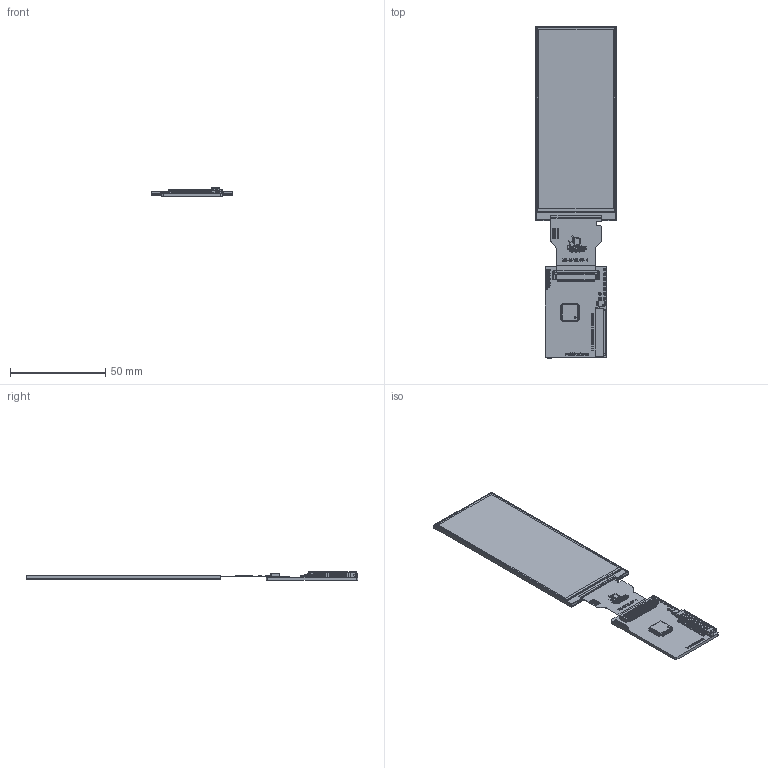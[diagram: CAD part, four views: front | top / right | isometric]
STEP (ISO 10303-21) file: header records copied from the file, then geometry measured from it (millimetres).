
FILE_DESCRIPTION (( 'STEP AP214' ), '1' );
FILE_NAME ('ER-TFT3.99-1-6011.STEP', '2024-08-26T05:53:23', ( '微软用户' ), ( '微软中国' ), 'SwSTEP 2.0', 'SolidWorks 2023', '' );
FILE_SCHEMA (( 'AUTOMOTIVE_DESIGN' ));
Length unit declared in the file: millimetre
Products named in the file (3): ER-6011-Controller Board; ER-TFT3.99-1-6011; ER-TFT3.99-1
Assembly tree (2 placements, depth 2):
  ER-TFT3.99-1-6011
    ER-6011-Controller Board
    ER-TFT3.99-1
Bounding box: 42.5 x 174 x 4.32 mm (x, y, z)
Volume: 11934.7 mm3; surface area: 17850.6 mm2
Topology: 183 solids, 183 shells, 5160 faces, 15147 edges, 9943 vertices
Faces by surface type: plane 4016, bspline 597, cylinder 547
Entity records: 247089 total; most frequent: CARTESIAN_POINT 60962, ORIENTED_EDGE 30264, DIRECTION 24140, EDGE_CURVE 15132, LINE 12780, VECTOR 12780, VERTEX_POINT 9943, AXIS2_PLACEMENT_3D 5680
